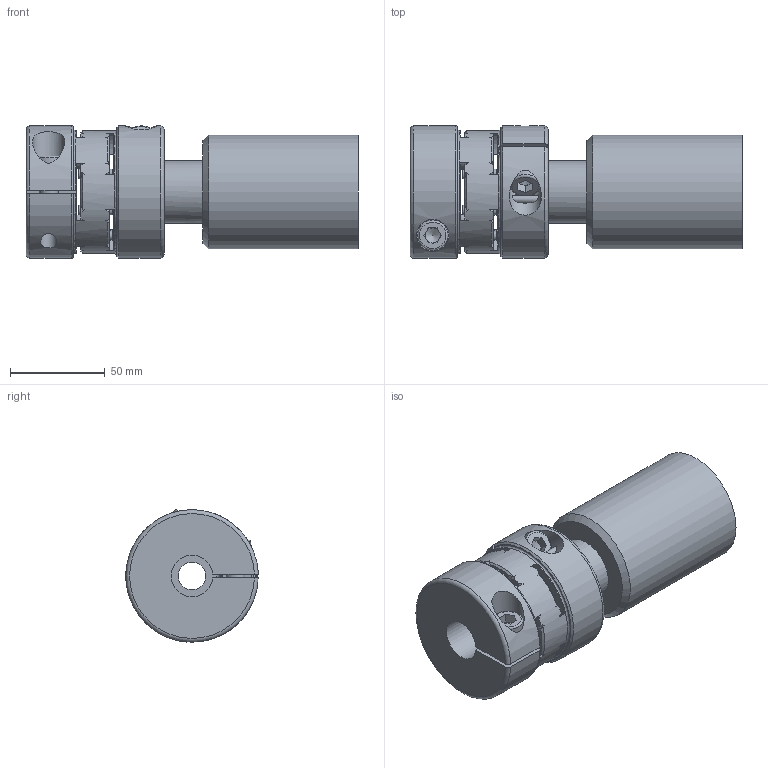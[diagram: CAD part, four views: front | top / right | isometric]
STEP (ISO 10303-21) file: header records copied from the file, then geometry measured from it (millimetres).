
FILE_DESCRIPTION( ( 'Unknown' ), '1' );
FILE_NAME( 'F:/JAKOB-STEP+IGES-Dateien/STEP-Dateien/EKZ/EKZ 200.stp', 'Unknown', ( 'Unknown' ), ( 'Unknown' ), 'PSStep 10.1', 'Unknown', ' ' );
FILE_SCHEMA( ( 'AUTOMOTIVE_DESIGN { 1 0 10303 214 1 1 1 1 }' ) );
Length unit declared in the file: millimetre
Products named in the file (1): SK-1491-Rohr
Bounding box: 175.5 x 69.99 x 69.99 mm (x, y, z)
Volume: 302505.1 mm3; surface area: 84633 mm2
Topology: 1 solids, 1 shells, 234 faces, 656 edges, 422 vertices
Faces by surface type: cylinder 83, cone 74, plane 68, torus 9
Full cylindrical faces by diameter (mm): 5 x8, 8.5 x2, 10 x2, 10.4 x1, 11 x1, 14.5 x1, 16 x2, 17 x2, 24 x1, 30 x2, 33 x1, 44 x1, 54 x1, 60 x1, 65 x1
Entity records: 9738 total; most frequent: CARTESIAN_POINT 2127, DIRECTION 1200, ORIENTED_EDGE 1180, EDGE_CURVE 590, AXIS2_PLACEMENT_3D 519, VERTEX_POINT 400, EDGE_LOOP 308, CIRCLE 285
